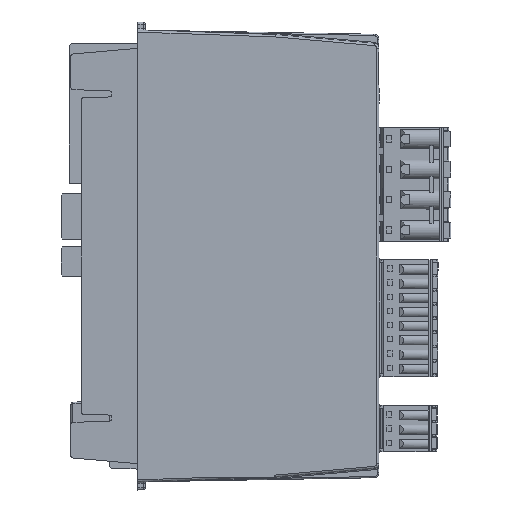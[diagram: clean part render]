
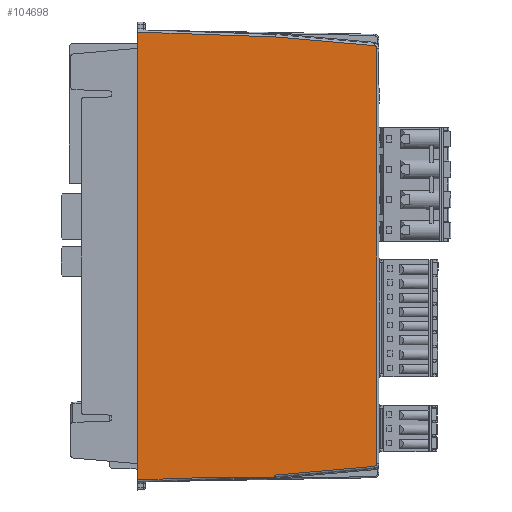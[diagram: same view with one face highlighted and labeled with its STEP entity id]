
A CAD part, left-side view. The second image highlights one B-rep face of the part: STEP entity #104698.
In plain terms, the highlighted planar face has unit normal (-1, -0.018, 0).
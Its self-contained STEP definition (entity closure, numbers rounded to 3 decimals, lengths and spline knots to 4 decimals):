
#784=ELLIPSE('',#112061,0.0315,0.0315);
#785=ELLIPSE('',#112062,0.0315,0.0315);
#5012=PLANE('',#112060);
#10881=FACE_OUTER_BOUND('',#16552,.T.);
#16552=EDGE_LOOP('',(#90517,#90518,#90519,#90520,#90521,#90522,#90523,#90524,
#90525,#90526,#90527,#90528,#90529));
#29645=LINE('',#169618,#40806);
#29658=LINE('',#169690,#40819);
#29741=LINE('',#170029,#40902);
#30071=LINE('',#171861,#41232);
#30072=LINE('',#171863,#41233);
#30073=LINE('',#171867,#41234);
#30074=LINE('',#171871,#41235);
#30075=LINE('',#171873,#41236);
#30076=LINE('',#171875,#41237);
#30077=LINE('',#171877,#41238);
#30078=LINE('',#171878,#41239);
#40806=VECTOR('',#135490,0.3937);
#40819=VECTOR('',#135531,0.3937);
#40902=VECTOR('',#135800,39.3701);
#41232=VECTOR('',#136526,39.3701);
#41233=VECTOR('',#136527,39.3701);
#41234=VECTOR('',#136530,39.3701);
#41235=VECTOR('',#136533,39.3701);
#41236=VECTOR('',#136534,39.3701);
#41237=VECTOR('',#136535,39.3701);
#41238=VECTOR('',#136536,39.3701);
#41239=VECTOR('',#136537,39.3701);
#49964=VERTEX_POINT('',#169614);
#49966=VERTEX_POINT('',#169617);
#49988=VERTEX_POINT('',#169685);
#50095=VERTEX_POINT('',#170028);
#50467=VERTEX_POINT('',#171860);
#50468=VERTEX_POINT('',#171862);
#50469=VERTEX_POINT('',#171864);
#50470=VERTEX_POINT('',#171866);
#50471=VERTEX_POINT('',#171868);
#50472=VERTEX_POINT('',#171870);
#50473=VERTEX_POINT('',#171872);
#50474=VERTEX_POINT('',#171874);
#50475=VERTEX_POINT('',#171876);
#63310=EDGE_CURVE('',#49964,#49966,#29645,.T.);
#63337=EDGE_CURVE('',#49966,#49988,#29658,.T.);
#63481=EDGE_CURVE('',#50095,#49988,#29741,.T.);
#64012=EDGE_CURVE('',#49964,#50467,#30071,.T.);
#64013=EDGE_CURVE('',#50467,#50468,#30072,.T.);
#64014=EDGE_CURVE('',#50468,#50469,#784,.T.);
#64015=EDGE_CURVE('',#50469,#50470,#30073,.T.);
#64016=EDGE_CURVE('',#50470,#50471,#785,.T.);
#64017=EDGE_CURVE('',#50471,#50472,#30074,.T.);
#64018=EDGE_CURVE('',#50472,#50473,#30075,.T.);
#64019=EDGE_CURVE('',#50473,#50474,#30076,.T.);
#64020=EDGE_CURVE('',#50475,#50474,#30077,.T.);
#64021=EDGE_CURVE('',#50475,#50095,#30078,.T.);
#90517=ORIENTED_EDGE('',*,*,#64012,.T.);
#90518=ORIENTED_EDGE('',*,*,#64013,.T.);
#90519=ORIENTED_EDGE('',*,*,#64014,.T.);
#90520=ORIENTED_EDGE('',*,*,#64015,.T.);
#90521=ORIENTED_EDGE('',*,*,#64016,.T.);
#90522=ORIENTED_EDGE('',*,*,#64017,.T.);
#90523=ORIENTED_EDGE('',*,*,#64018,.T.);
#90524=ORIENTED_EDGE('',*,*,#64019,.T.);
#90525=ORIENTED_EDGE('',*,*,#64020,.F.);
#90526=ORIENTED_EDGE('',*,*,#64021,.T.);
#90527=ORIENTED_EDGE('',*,*,#63481,.T.);
#90528=ORIENTED_EDGE('',*,*,#63337,.F.);
#90529=ORIENTED_EDGE('',*,*,#63310,.F.);
#104698=ADVANCED_FACE('',(#10881),#5012,.T.);
#112060=AXIS2_PLACEMENT_3D('',#171859,#136524,#136525);
#112061=AXIS2_PLACEMENT_3D('',#171865,#136528,#136529);
#112062=AXIS2_PLACEMENT_3D('',#171869,#136531,#136532);
#135490=DIRECTION('',(0.,0.,-1.));
#135531=DIRECTION('',(-0.017,1.,0.));
#135800=DIRECTION('',(0.017,-0.999,0.035));
#136524=DIRECTION('center_axis',(-1.,-0.017,
0.));
#136525=DIRECTION('ref_axis',(-0.017,1.,0.));
#136526=DIRECTION('',(0.017,-0.999,0.035));
#136527=DIRECTION('',(0.017,-0.996,0.087));
#136528=DIRECTION('center_axis',(-1.,-0.017,
0.));
#136529=DIRECTION('ref_axis',(0.017,-1.,0.));
#136530=DIRECTION('',(0.,0.,1.));
#136531=DIRECTION('center_axis',(-1.,-0.017,
0.));
#136532=DIRECTION('ref_axis',(0.017,-1.,0.));
#136533=DIRECTION('',(-0.017,0.996,0.087));
#136534=DIRECTION('',(-0.017,0.999,0.035));
#136535=DIRECTION('',(0.,0.,-1.));
#136536=DIRECTION('',(0.,0.,1.));
#136537=DIRECTION('',(0.,0.,-1.));
#169614=CARTESIAN_POINT('',(0.0005,-2.2096,-4.1958));
#169617=CARTESIAN_POINT('',(0.0005,-2.2096,-4.2206));
#169618=CARTESIAN_POINT('',(0.0005,-2.2096,-3.155));
#169685=CARTESIAN_POINT('',(-0.0119,-1.4997,-4.2206));
#169690=CARTESIAN_POINT('',(-0.0131,-1.4351,-4.2206));
#170028=CARTESIAN_POINT('',(-0.0227,-0.8827,-4.2421));
#170029=CARTESIAN_POINT('',(-0.0282,-0.5654,-4.2532));
#171859=CARTESIAN_POINT('Origin',(-0.0296,-0.489,
-2.0669));
#171860=CARTESIAN_POINT('',(0.0007,-2.2205,-4.1954));
#171861=CARTESIAN_POINT('',(-0.0282,-0.5654,-4.2532));
#171862=CARTESIAN_POINT('',(0.0174,-3.1772,-4.1117));
#171863=CARTESIAN_POINT('',(-0.0261,-0.6869,-4.3296));
#171864=CARTESIAN_POINT('',(0.0179,-3.2059,-4.0803));
#171865=CARTESIAN_POINT('Origin',(0.0173,-3.1744,
-4.0803));
#171866=CARTESIAN_POINT('',(0.0179,-3.2059,-0.0535));
#171867=CARTESIAN_POINT('',(0.0179,-3.2059,-0.0535));
#171868=CARTESIAN_POINT('',(0.0174,-3.1772,-0.0221));
#171869=CARTESIAN_POINT('Origin',(0.0173,-3.1744,
-0.0535));
#171870=CARTESIAN_POINT('',(0.0007,-2.2205,0.0616));
#171871=CARTESIAN_POINT('',(-0.0261,-0.6869,0.1957));
#171872=CARTESIAN_POINT('',(-0.0227,-0.8827,0.1083));
#171873=CARTESIAN_POINT('',(-0.0282,-0.5654,0.1194));
#171874=CARTESIAN_POINT('',(-0.0227,-0.8827,-0.0312));
#171875=CARTESIAN_POINT('',(-0.0227,-0.8827,0.128));
#171876=CARTESIAN_POINT('',(-0.0227,-0.8827,-4.1027));
#171877=CARTESIAN_POINT('',(-0.0227,-0.8827,-7.5932));
#171878=CARTESIAN_POINT('',(-0.0227,-0.8827,0.128));
